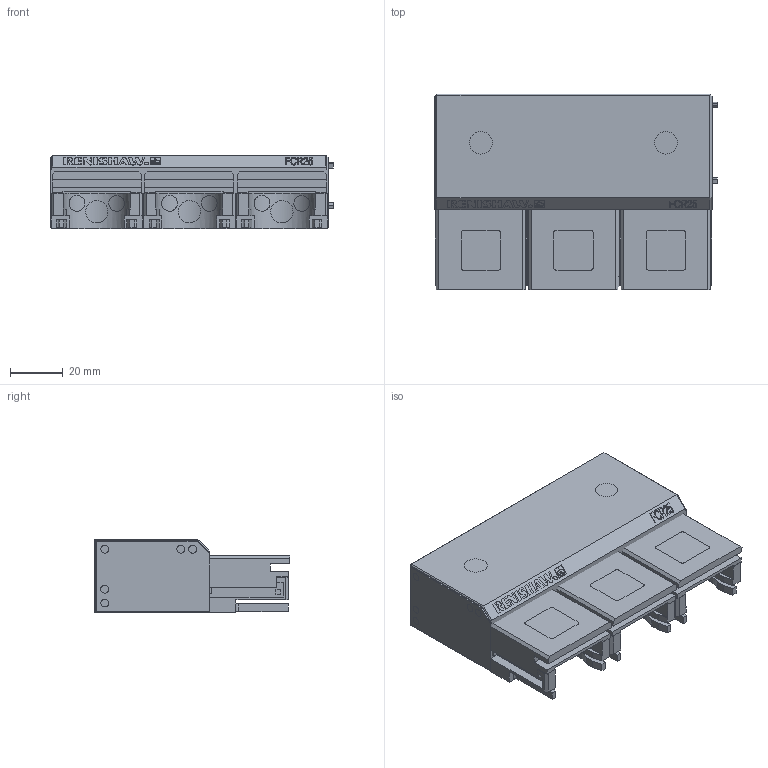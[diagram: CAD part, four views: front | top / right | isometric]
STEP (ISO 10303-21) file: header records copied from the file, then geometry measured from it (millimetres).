
FILE_DESCRIPTION(/* description */ (''),/* implementation_level */ '2;1');
FILE_NAME(/* name */ 'LA-2237-0824#-E.stp',/* time_stamp */ '2012-09-04T14:06:12+01:00',/* author */ (''),/* organization */ (''),/* preprocessor_version */ 'ST-DEVELOPER v11',/* originating_system */ 'SIEMENS PLM Software NX 7.5',/* authorisation */ '');
FILE_SCHEMA (('AUTOMOTIVE_DESIGN { 1 0 10303 214 1 1 1 1 }'));
Length unit declared in the file: millimetre
Products named in the file (1): rt133622tjoa
Bounding box: 107.75 x 74.5 x 28 mm (x, y, z)
Volume: 157931.9 mm3; surface area: 38184.2 mm2
Topology: 4 solids, 4 shells, 389 faces, 1179 edges, 867 vertices
Faces by surface type: plane 353, cylinder 36
Entity records: 15647 total; most frequent: CARTESIAN_POINT 3103, ORIENTED_EDGE 2358, DIRECTION 2031, EDGE_CURVE 1179, LINE 993, VECTOR 993, VERTEX_POINT 867, AXIS2_PLACEMENT_3D 519
